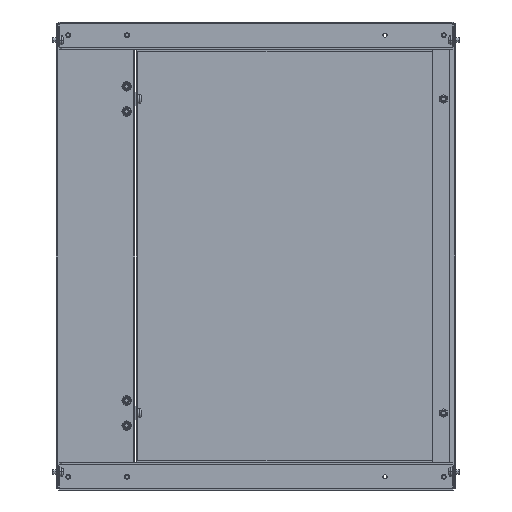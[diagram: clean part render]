
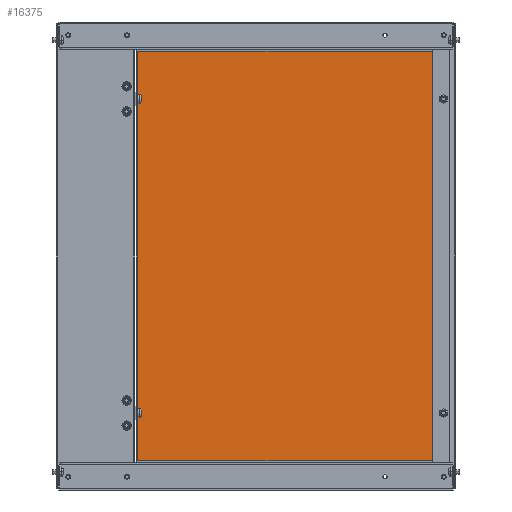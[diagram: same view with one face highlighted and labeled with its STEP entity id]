
A CAD part, left-side view. The second image highlights one B-rep face of the part: STEP entity #16375.
In plain terms, the highlighted planar face has unit normal (-1, 0, 0).
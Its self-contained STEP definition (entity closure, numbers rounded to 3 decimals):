
#448 = EDGE_CURVE ( 'NONE', #24309, #16742, #25064, .T. ) ;
#896 = VECTOR ( 'NONE', #19270, 1000. ) ;
#1258 = VERTEX_POINT ( 'NONE', #25190 ) ;
#2551 = CARTESIAN_POINT ( 'NONE',  ( 54.25, 193., -759.15 ) ) ;
#5377 = VERTEX_POINT ( 'NONE', #17175 ) ;
#7216 = EDGE_LOOP ( 'NONE', ( #10079, #9972, #17330, #24708 ) ) ;
#7379 = CARTESIAN_POINT ( 'NONE',  ( 54.25, 380.75, -238.15 ) ) ;
#8230 = DIRECTION ( 'NONE',  ( 0., 1., 0. ) ) ;
#8305 = LINE ( 'NONE', #25471, #20530 ) ;
#8334 = CARTESIAN_POINT ( 'NONE',  ( 54.25, 380.75, -498.65 ) ) ;
#8921 = EDGE_CURVE ( 'NONE', #5377, #1258, #8305, .T. ) ;
#9595 = EDGE_CURVE ( 'NONE', #1258, #24309, #14737, .T. ) ;
#9972 = ORIENTED_EDGE ( 'NONE', *, *, #448, .T. ) ;
#10040 = CARTESIAN_POINT ( 'NONE',  ( 54.25, 380.75, -759.15 ) ) ;
#10079 = ORIENTED_EDGE ( 'NONE', *, *, #9595, .T. ) ;
#11176 = LINE ( 'NONE', #2551, #896 ) ;
#12617 = CARTESIAN_POINT ( 'NONE',  ( 54.25, 193., -238.15 ) ) ;
#13091 = VECTOR ( 'NONE', #14439, 1000. ) ;
#14439 = DIRECTION ( 'NONE',  ( 0., 0., -1. ) ) ;
#14737 = LINE ( 'NONE', #12617, #25819 ) ;
#16375 = ADVANCED_FACE ( 'NONE', ( #16440 ), #22967, .T. ) ;
#16440 = FACE_OUTER_BOUND ( 'NONE', #7216, .T. ) ;
#16733 = DIRECTION ( 'NONE',  ( -1., 0., 0. ) ) ;
#16742 = VERTEX_POINT ( 'NONE', #10040 ) ;
#17175 = CARTESIAN_POINT ( 'NONE',  ( 54.25, 5.25, -759.15 ) ) ;
#17330 = ORIENTED_EDGE ( 'NONE', *, *, #24505, .T. ) ;
#18668 = DIRECTION ( 'NONE',  ( 0., 0., 1. ) ) ;
#18859 = CARTESIAN_POINT ( 'NONE',  ( 54.25, 193., -498.65 ) ) ;
#19270 = DIRECTION ( 'NONE',  ( 0., -1., 0. ) ) ;
#20301 = AXIS2_PLACEMENT_3D ( 'NONE', #18859, #16733, #25094 ) ;
#20530 = VECTOR ( 'NONE', #18668, 1000. ) ;
#22967 = PLANE ( 'NONE',  #20301 ) ;
#24309 = VERTEX_POINT ( 'NONE', #7379 ) ;
#24505 = EDGE_CURVE ( 'NONE', #16742, #5377, #11176, .T. ) ;
#24708 = ORIENTED_EDGE ( 'NONE', *, *, #8921, .T. ) ;
#25064 = LINE ( 'NONE', #8334, #13091 ) ;
#25094 = DIRECTION ( 'NONE',  ( 0., 1., 0. ) ) ;
#25190 = CARTESIAN_POINT ( 'NONE',  ( 54.25, 5.25, -238.15 ) ) ;
#25471 = CARTESIAN_POINT ( 'NONE',  ( 54.25, 5.25, -498.65 ) ) ;
#25819 = VECTOR ( 'NONE', #8230, 1000. ) ;
